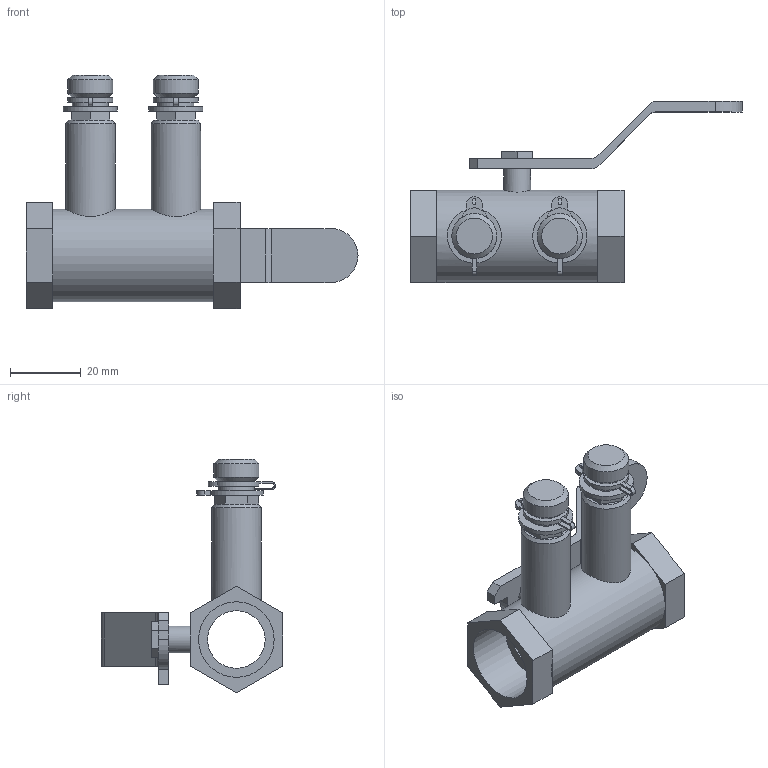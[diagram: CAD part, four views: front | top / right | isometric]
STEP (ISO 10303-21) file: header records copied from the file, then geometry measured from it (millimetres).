
FILE_DESCRIPTION(/* description */ ('VIC BALANCING VALVE SERIES 78BL (THD)','CAx-IF Rec.Pracs.---Representation and Presentation of Product Manufacturing Information (PMI)---4.0---2014-10-13'),/* implementation_level */ '2;1');
FILE_NAME(/* name */ 'C:\Users\kkamble\Desktop\New folder (12)\New folder\step\Victaulic-IPS-TA Balancing Ball Valve Series 78BL (THD)\Victaulic-IPS-TA Balancing Ball Valve Series 78BL (THD)_0.5 (15).stp',/* time_stamp */ '2020-10-13T18:39:42+05:00',/* author */ ('kkamble'),/* organization */ ('Victaulic'),/* preprocessor_version */ 'ST-DEVELOPER v17.2',/* originating_system */ 'Autodesk Inventor 2019',/* authorisation */ '');
FILE_SCHEMA (('AP242_MANAGED_MODEL_BASED_3D_ENGINEERING_MIM_LF { 1 0 10303 442 1 1 4 }'));
Length unit declared in the file: inch
Products named in the file (1): 78BL-0.5
Bounding box: 93.73 x 51.14 x 65.99 mm (x, y, z)
Volume: 31284.6 mm3; surface area: 16710.8 mm2
Topology: 3 solids, 3 shells, 161 faces, 425 edges, 271 vertices
Faces by surface type: plane 119, cylinder 36, cone 6
Full cylindrical faces by diameter (mm): 4.318 x1, 7.62 x1, 12.7 x2, 13.97 x2, 16.256 x1, 21.336 x2, 26.086 x1
Entity records: 5423 total; most frequent: CARTESIAN_POINT 981, DIRECTION 892, ORIENTED_EDGE 854, EDGE_CURVE 427, LINE 300, VECTOR 300, AXIS2_PLACEMENT_3D 296, VERTEX_POINT 273
